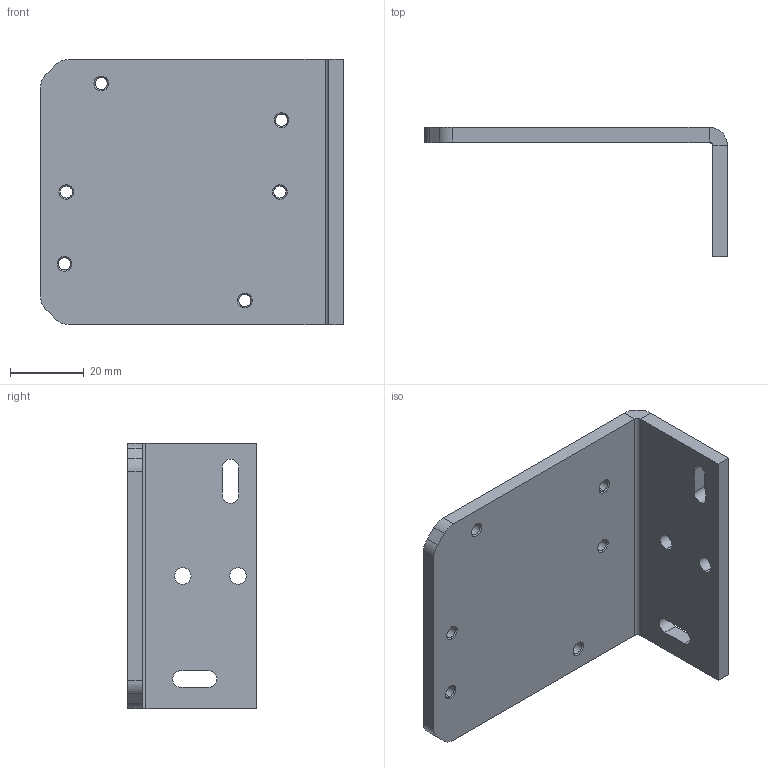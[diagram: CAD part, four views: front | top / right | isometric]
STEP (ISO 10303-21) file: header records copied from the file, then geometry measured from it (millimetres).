
FILE_DESCRIPTION((''),'2;1');
FILE_NAME('2028634','2021-04-07T08:24:07',('t.hampe'),(''),'CREO PARAMETRIC BY PTC INC, 2019292','CREO PARAMETRIC BY PTC INC, 2019292','');
FILE_SCHEMA(('AUTOMOTIVE_DESIGN { 1 0 10303 214 1 1 1 1 }'));
Length unit declared in the file: millimetre
Products named in the file (1): 2028634
Bounding box: 82.3 x 35 x 72 mm (x, y, z)
Volume: 31392.1 mm3; surface area: 18016 mm2
Topology: 1 solids, 7 shells, 80 faces, 215 edges, 156 vertices
Faces by surface type: cylinder 38, cone 24, plane 18
Entity records: 4358 total; most frequent: DIRECTION 477, CARTESIAN_POINT 428, ORIENTED_EDGE 380, PRESENTATION_STYLE_ASSIGNMENT 223, STYLED_ITEM 223, CURVE_STYLE 216, EDGE_CURVE 202, AXIS2_PLACEMENT_3D 181
